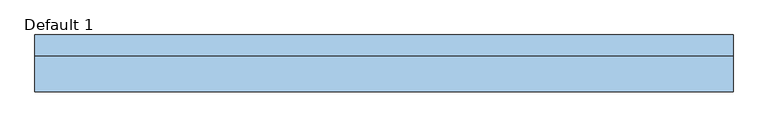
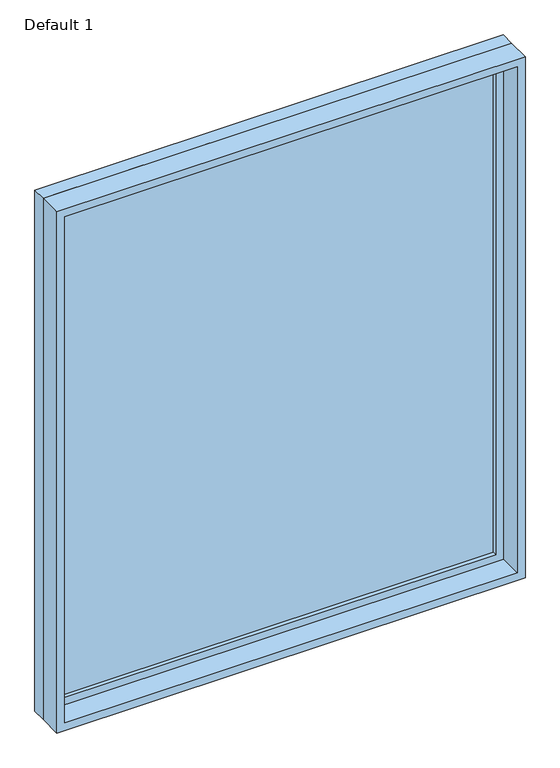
"""IFC4 building model written with IfcOpenShell, lengths in millimetres: window geometry, Planitar-Fixed : Default 1."""

import ifcopenshell
import ifcopenshell.guid

model = None  # the IFC model being written
_history = None  # IfcOwnerHistory: only IFC2X3 demands one
_inside = {}  # id of a spatial element -> (the spatial element, [elements in it])
_under = {}  # id of a project, library or spatial element -> (it, [spatial elements below it])
_declared = {}  # id of a project -> (the project, [libraries it declares])
_typed = {}  # id of a type object -> (the type object, [elements of that type])
_made_of = {}  # id of a material, layer set ... -> (it, [elements and type objects made of it])


def new_model(schema):
    """Start an empty IFC model of exactly this schema.

    Asked for "IFC4X3", IfcOpenShell would pick the latest addendum, in which some entities
    have other attributes; the version numbers below select the first issue.
    IFC2X3 requires an IfcOwnerHistory on every rooted entity: one is made here for all.
    """
    global model, _history
    if schema == "IFC4X3":
        model = ifcopenshell.file(schema_version=(4, 3, 0, 0))
    else:
        model = ifcopenshell.file(schema=schema)
    _inside.clear()
    _under.clear()
    _declared.clear()
    _typed.clear()
    _made_of.clear()
    _history = None
    if model.schema == "IFC2X3":
        org = make("IfcOrganization", Name="unknown")
        user = make(
            "IfcPersonAndOrganization",
            ThePerson=make("IfcPerson", FamilyName="unknown"),
            TheOrganization=org,
        )
        app = make(
            "IfcApplication",
            ApplicationDeveloper=org,
            Version="unknown",
            ApplicationFullName="unknown",
            ApplicationIdentifier="unknown",
        )
        _history = make(
            "IfcOwnerHistory",
            OwningUser=user,
            OwningApplication=app,
            ChangeAction="ADDED",
            CreationDate=0,
        )
    return model


def make(cls, **values):
    """One entity of the class cls with the attributes given. An attribute that is None is left unset."""
    return model.create_entity(
        cls, **{name: value for name, value in values.items() if value is not None}
    )


def rooted(cls, **values):
    """An entity with a GlobalId (a new one), such as an element, a storey or a relation."""
    return make(cls, GlobalId=ifcopenshell.guid.new(), OwnerHistory=_history, **values)


def si_unit(unit_type, name, prefix=None):
    """IfcSIUnit, for example si_unit("LENGTHUNIT", "METRE", prefix="MILLI")."""
    return make("IfcSIUnit", UnitType=unit_type, Prefix=prefix, Name=name)


def assignment(units):
    """IfcUnitAssignment: the units of a project."""
    return None if units is None else make("IfcUnitAssignment", Units=units)


def point(xyz):
    """IfcCartesianPoint."""
    return None if xyz is None else make("IfcCartesianPoint", Coordinates=xyz)


def direction(xyz):
    """IfcDirection."""
    return None if xyz is None else make("IfcDirection", DirectionRatios=xyz)


def frame(location, z_axis=None, x_axis=None):
    """IfcAxis2Placement3D, a coordinate frame: its origin and axes. An axis left out is left unset."""
    return make(
        "IfcAxis2Placement3D",
        Location=point(location),
        Axis=direction(z_axis),
        RefDirection=direction(x_axis),
    )


def origin():
    """The frame at (0, 0, 0) with its axes left unset."""
    return frame((0.0, 0.0, 0.0))


def place(relative_to, where):
    """IfcLocalPlacement: puts the frame where relative to a parent placement (None: the world)."""
    return make(
        "IfcLocalPlacement", PlacementRelTo=relative_to, RelativePlacement=where
    )


def context(
    kind, dimensions, precision=None, world=None, true_north=None, identifier=None
):
    """IfcGeometricRepresentationContext, for example the 3D "Model" context."""
    return make(
        "IfcGeometricRepresentationContext",
        ContextIdentifier=identifier,
        ContextType=kind,
        CoordinateSpaceDimension=dimensions,
        Precision=precision,
        WorldCoordinateSystem=world,
        TrueNorth=true_north,
    )


def project(units=None, contexts=None):
    """IfcProject with its units and contexts."""
    return rooted(
        "IfcProject",
        Name="project",
        RepresentationContexts=contexts,
        UnitsInContext=assignment(units),
    )


def spatial(cls, under=None, at=None, **own):
    """A site, building, storey or space (cls), placed at a placement, below another one or the project."""
    s = rooted(cls, ObjectPlacement=at, **own)
    if under is not None:
        _under.setdefault(under.id(), (under, []))[1].append(s)
    return s


def polyline(points):
    """IfcPolyline through the points."""
    return make("IfcPolyline", Points=[point(p) for p in points])


def outline(outer, holes=None, kind="AREA"):
    """IfcArbitraryClosedProfileDef: a profile drawn as a closed curve; with holes, ...WithVoids."""
    if holes is None:
        return make("IfcArbitraryClosedProfileDef", ProfileType=kind, OuterCurve=outer)
    return make(
        "IfcArbitraryProfileDefWithVoids",
        ProfileType=kind,
        OuterCurve=outer,
        InnerCurves=holes,
    )


def extrude(swept, where, along, depth):
    """IfcExtrudedAreaSolid: the profile swept, set in the frame where, extruded along a direction by depth."""
    return make(
        "IfcExtrudedAreaSolid",
        SweptArea=swept,
        Position=where,
        ExtrudedDirection=direction(along),
        Depth=depth,
    )


def shape(context_of_items, identifier, shape_type, items):
    """IfcShapeRepresentation: the items that make up one representation, for example the "Body"."""
    return make(
        "IfcShapeRepresentation",
        ContextOfItems=context_of_items,
        RepresentationIdentifier=identifier,
        RepresentationType=shape_type,
        Items=items,
    )


def source(mapping_origin, context_of_items, identifier, shape_type, items):
    """IfcRepresentationMap: a shape defined once, which mapped items show again and again."""
    return make(
        "IfcRepresentationMap",
        MappingOrigin=mapping_origin,
        MappedRepresentation=shape(context_of_items, identifier, shape_type, items),
    )


def transform(
    local_origin,
    x_axis=None,
    y_axis=None,
    z_axis=None,
    scale=None,
    scale2=None,
    scale3=None,
    uniform=True,
):
    """IfcCartesianTransformationOperator3D, or its non-uniform kind. x_axis, y_axis, z_axis: its Axis1, 2, 3."""
    if uniform:
        return make(
            "IfcCartesianTransformationOperator3D",
            Axis1=direction(x_axis),
            Axis2=direction(y_axis),
            LocalOrigin=point(local_origin),
            Scale=scale,
            Axis3=direction(z_axis),
        )
    return make(
        "IfcCartesianTransformationOperator3DnonUniform",
        Axis1=direction(x_axis),
        Axis2=direction(y_axis),
        LocalOrigin=point(local_origin),
        Scale=scale,
        Axis3=direction(z_axis),
        Scale2=scale2,
        Scale3=scale3,
    )


def mapped(mapping_source, mapping_target):
    """IfcMappedItem: shows the shape of a source again, moved by a transform."""
    return make(
        "IfcMappedItem", MappingSource=mapping_source, MappingTarget=mapping_target
    )


def made_of(thing, what):
    """Note that an element or type object is made of a material, layer set ...; save() writes the relation."""
    if what is not None:
        _made_of.setdefault(what.id(), (what, []))[1].append(thing)
    return thing


def element(
    cls,
    number,
    at=None,
    inside=None,
    cuts=None,
    type_object=None,
    material=None,
    context=None,
    identifier="Body",
    shape_type=None,
    held_by="IfcProductDefinitionShape",
    body=None,
    shapes=None,
    **own,
):
    """One element of the class cls, such as IfcWall. Its Tag is "e" and its number.

    at: its placement. inside: the storey or other place that contains it. cuts: it is an
    opening in that element (IfcRelVoidsElement). A single representation is given by context,
    identifier, shape_type and body (its items); several are given by shapes. held_by: the class
    of the entity that holds the representations. save() writes the other relations.
    """
    e = rooted(cls, Tag="e%d" % number, ObjectPlacement=at, **own)
    if body is not None:
        shapes = [shape(context, identifier, shape_type, body)]
    if shapes is not None:
        e.Representation = make(held_by, Representations=shapes)
    if inside is not None:
        _inside.setdefault(inside.id(), (inside, []))[1].append(e)
    if cuts is not None:
        rooted(
            "IfcRelVoidsElement", RelatingBuildingElement=cuts, RelatedOpeningElement=e
        )
    if type_object is not None:
        _typed.setdefault(type_object.id(), (type_object, []))[1].append(e)
    return made_of(e, material)


def aggregate(whole, parts):
    """IfcRelAggregates: a whole, such as a stair, and the parts it consists of."""
    return rooted("IfcRelAggregates", RelatingObject=whole, RelatedObjects=parts)


def save(model, path):
    """Write the relations noted so far, then the file.

    IfcRelAggregates (storeys below a building ...), IfcRelContainedInSpatialStructure (elements
    in a storey), IfcRelDefinesByType, IfcRelAssociatesMaterial and IfcRelDeclares: one each for
    every whole, place, type object, material and project.
    """
    for whole, parts in _under.values():
        aggregate(whole, parts)
    for where, things in _inside.values():
        rooted(
            "IfcRelContainedInSpatialStructure",
            RelatedElements=things,
            RelatingStructure=where,
        )
    for kind, things in _typed.values():
        rooted("IfcRelDefinesByType", RelatedObjects=things, RelatingType=kind)
    for what, things in _made_of.values():
        rooted("IfcRelAssociatesMaterial", RelatedObjects=things, RelatingMaterial=what)
    for by, libraries in _declared.values():
        rooted("IfcRelDeclares", RelatingContext=by, RelatedDefinitions=libraries)
    model.write(path)


def default_1_c63afb6d(model_context):
    return source(origin(), model_context, "Body", "SweptSolid", [
        extrude(outline(polyline([(3105.2, -920.8), (933.4, -920.8), (933.4, 920.8), (3105.2, 920.8), (3105.2, -920.8)]), holes=[polyline([(3061.2, -876.8), (3061.2, 876.8), (977.4, 876.8), (977.4, -876.8), (3061.2, -876.8)])]), frame((0.0, 32.5, 0.0), z_axis=(0.0, 1.0, 0.0), x_axis=(0.0, 0.0, 1.0)), (0.0, 0.0, 1.0), 44.0),
        extrude(outline(polyline([(3124.2, -939.8), (914.4, -939.8), (914.4, 939.8), (3124.2, 939.8), (3124.2, -939.8)]), holes=[polyline([(3105.2, -920.8), (3105.2, 920.8), (933.4, 920.8), (933.4, -920.8), (3105.2, -920.8)])]), frame((0.0, 32.5, 0.0), z_axis=(0.0, 1.0, 0.0), x_axis=(0.0, 0.0, 1.0)), (0.0, 0.0, 1.0), 56.7),
        extrude(outline(polyline([(3124.2, -939.8), (914.4, -939.8), (914.4, 939.8), (3124.2, 939.8), (3124.2, -939.8)]), holes=[polyline([(3092.2, -907.8), (3092.2, 907.8), (946.4, 907.8), (946.4, -907.8), (3092.2, -907.8)])]), frame((0.0, -63.2, 0.0), z_axis=(0.0, 1.0, 0.0), x_axis=(0.0, 0.0, 1.0)), (0.0, 0.0, 1.0), 95.7),
        extrude(outline(polyline([(-876.8, 60.5), (876.8, 60.5), (876.8, 48.5), (-876.8, 48.5), (-876.8, 60.5)])), frame((0.0, 0.0, 977.4), z_axis=(0.0, 0.0, 1.0), x_axis=(1.0, 0.0, 0.0)), (0.0, 0.0, 1.0), 2083.8),
    ])


if __name__ == "__main__":
    model = new_model("IFC4")
    model_context = context("Model", 3, world=origin())
    ifc_project = project(units=[si_unit("LENGTHUNIT", "METRE", prefix="MILLI")], contexts=[model_context])
    site = spatial("IfcSite", under=ifc_project)
    building = spatial("IfcBuilding", under=site)
    placement = place(None, origin())
    default_1_shape = default_1_c63afb6d(model_context)
    element("IfcWindow", 1, ObjectType="Planitar-Fixed : Default 1", at=placement, inside=building, context=model_context, shape_type="MappedRepresentation", body=[
        mapped(default_1_shape, transform((0.0, 0.0, 0.0), x_axis=(1.0, 0.0, 0.0), y_axis=(0.0, 1.0, 0.0), z_axis=(0.0, 0.0, 1.0))),
    ])
    save(model, "model.ifc")
